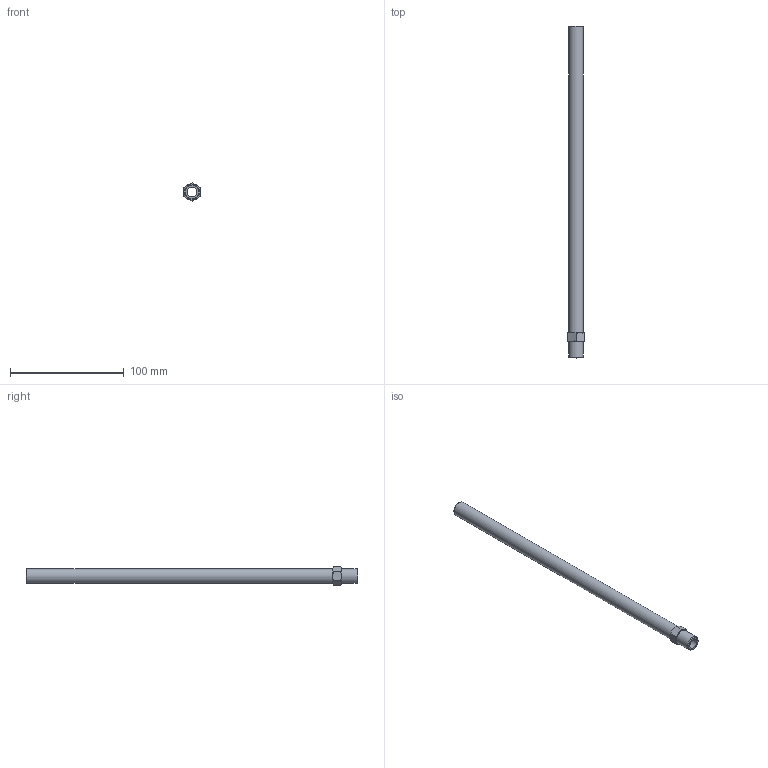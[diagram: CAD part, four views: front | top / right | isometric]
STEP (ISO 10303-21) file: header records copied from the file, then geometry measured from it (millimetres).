
FILE_DESCRIPTION(/* description */ (''),/* implementation_level */ '2;1');
FILE_NAME(/* name */ 'C:/Users/drich/Desktop/APN14-11-1_2 v1.step',/* time_stamp */ '2019-12-27T17:45:38-06:00',/* author */ (''),/* organization */ (''),/* preprocessor_version */ 'ST-DEVELOPER v18',/* originating_system */ 'Autodesk Translation Framework v8.12.0.6',/* authorisation */ '');
FILE_SCHEMA (('AUTOMOTIVE_DESIGN { 1 0 10303 214 3 1 1 }'));
Length unit declared in the file: inch
Products named in the file (1): APN14-11-1_2
Bounding box: 14.27 x 292.1 x 16.48 mm (x, y, z)
Volume: 21846.2 mm3; surface area: 20193.4 mm2
Topology: 1 solids, 1 shells, 17 faces, 39 edges, 26 vertices
Faces by surface type: plane 10, cone 4, cylinder 3
Full cylindrical faces by diameter (mm): 8.712 x1, 13.032 x2
Entity records: 521 total; most frequent: CARTESIAN_POINT 107, ORIENTED_EDGE 78, DIRECTION 77, EDGE_CURVE 39, AXIS2_PLACEMENT_3D 32, VERTEX_POINT 26, EDGE_LOOP 21, FACE_OUTER_BOUND 17
